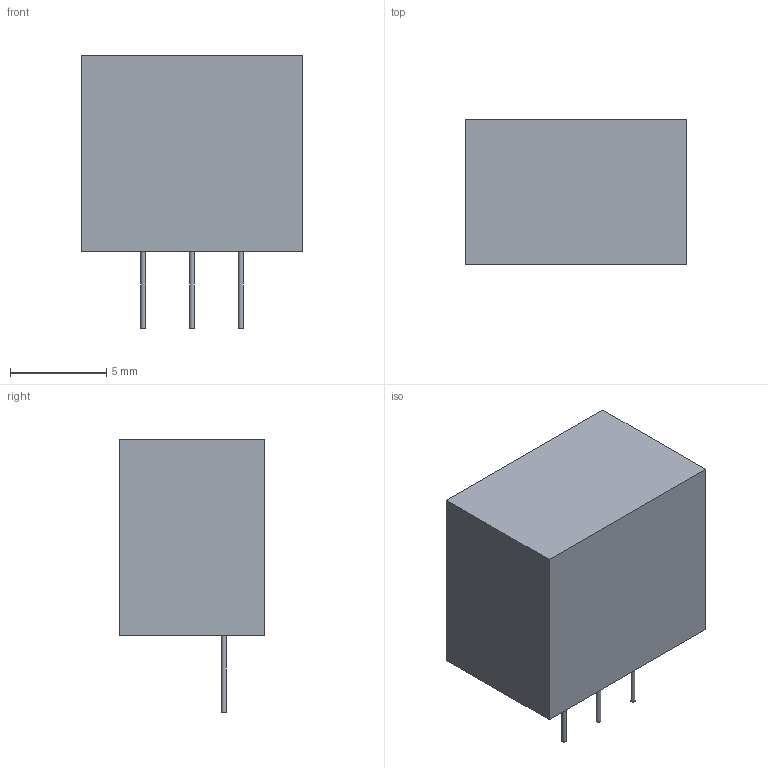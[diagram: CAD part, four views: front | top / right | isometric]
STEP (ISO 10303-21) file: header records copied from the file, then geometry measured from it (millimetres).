
FILE_DESCRIPTION(('FreeCAD Model'),'2;1');
FILE_NAME('Open CASCADE Shape Model','2026-05-02T18:48:02',(''),(''), 'Open CASCADE STEP processor 7.8','FreeCAD','Unknown');
FILE_SCHEMA(('AUTOMOTIVE_DESIGN { 1 0 10303 214 1 1 1 1 }'));
Length unit declared in the file: millimetre
Products named in the file (1): Body_With_Pins
Bounding box: 11.5 x 7.55 x 14.2 mm (x, y, z)
Volume: 886.2 mm3; surface area: 571.7 mm2
Topology: 1 solids, 1 shells, 12 faces, 21 edges, 14 vertices
Faces by surface type: plane 9, cylinder 3
Full cylindrical faces by diameter (mm): 0.25 x3
Entity records: 313 total; most frequent: DIRECTION 53, CARTESIAN_POINT 48, ORIENTED_EDGE 42, EDGE_CURVE 21, AXIS2_PLACEMENT_3D 19, FACE_BOUND 15, EDGE_LOOP 15, LINE 15
